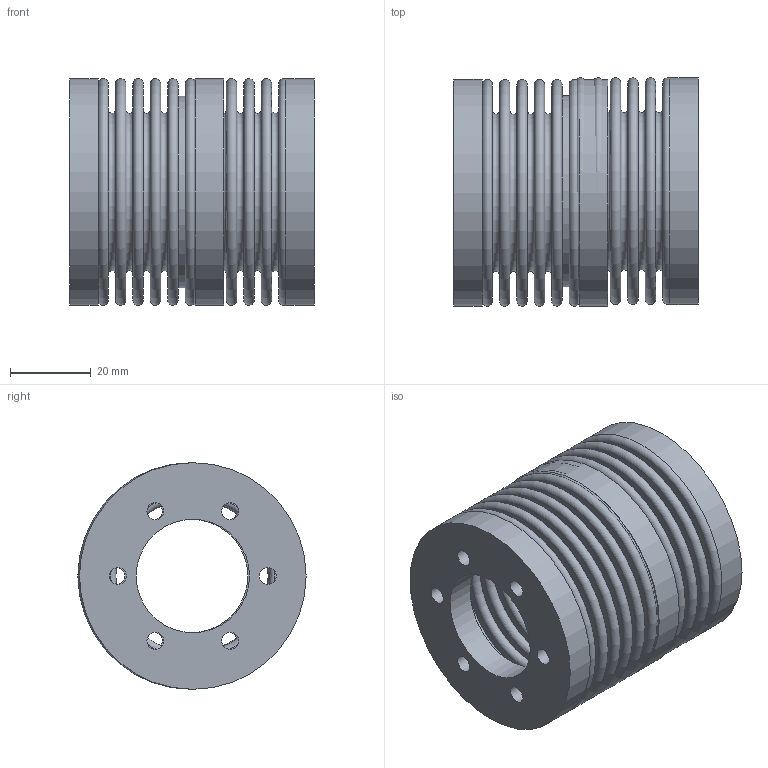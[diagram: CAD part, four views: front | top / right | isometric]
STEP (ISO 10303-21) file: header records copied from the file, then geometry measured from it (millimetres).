
FILE_DESCRIPTION( ( 'Unknown' ), '1' );
FILE_NAME( 'C:/Dokumente und Einstellungen/Sven/Desktop/homepage/cad - homepage/KB7/KB7-30-38.stp', 'Unknown', ( 'Unknown' ), ( 'Unknown' ), 'XStep 1.0', 'Unknown', ' ' );
FILE_SCHEMA( ( 'automotive_design' ) );
Length unit declared in the file: millimetre
Products named in the file (3): Assem1; FN30_Standard_0; BL30_Standard
Bounding box: 60.39 x 56.41 x 56 mm (x, y, z)
Volume: 51429.7 mm3; surface area: 89324.8 mm2
Topology: 5 solids, 5 shells, 138 faces, 238 edges, 158 vertices
Faces by surface type: plane 58, torus 48, cylinder 32
Full cylindrical faces by diameter (mm): 4.2 x18, 28 x3, 46.5 x4, 47.3 x4, 56 x3
Entity records: 1866 total; most frequent: DIRECTION 276, CARTESIAN_POINT 208, EDGE_LOOP 140, ORIENTED_EDGE 140, AXIS2_PLACEMENT_3D 138, FACE_OUTER_BOUND 100, EDGE_CURVE 70, VERTEX_POINT 70
